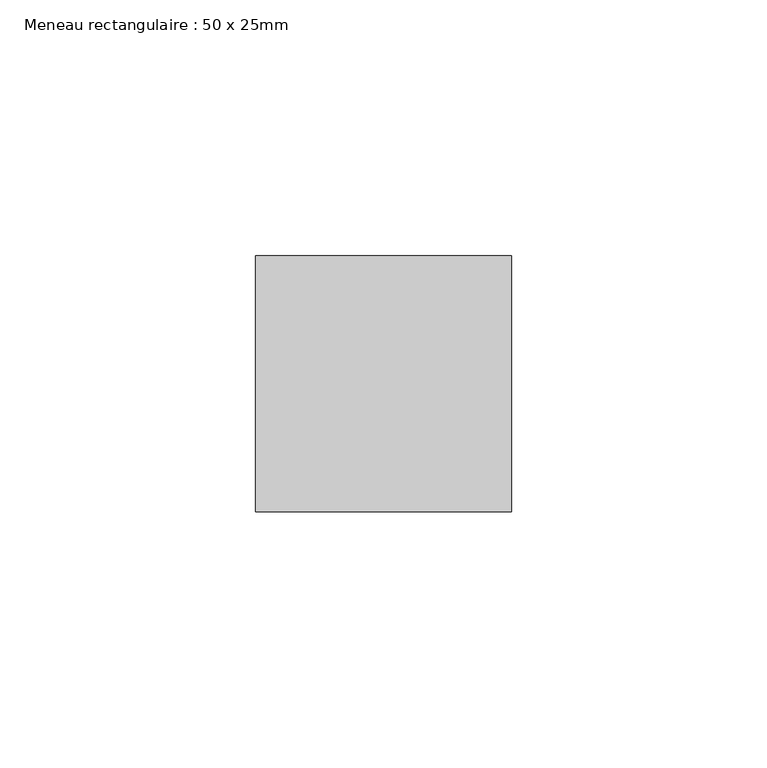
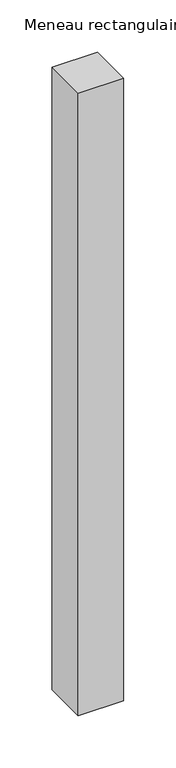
"""IFC4 building model written with IfcOpenShell, lengths in millimetres: member geometry, Meneau rectangulaire : 50 x 25mm."""

from ifc_helpers import new_model, si_unit, frame, origin, place, context, project, spatial, polyline, outline, extrude, source, transform, mapped, element, save


def meneau_rectangulaire_50_x_25mm_f7fa6ad2(model_context):
    return source(origin(), model_context, "Body", "SweptSolid", [
        extrude(outline(polyline([(25.0, 0.0), (25.0, -50.0), (-25.0, -50.0), (-25.0, 0.0), (25.0, 0.0)])), frame((0.0, 0.0, -726.4393104), z_axis=(0.0, 0.0, 1.0), x_axis=(1.0, 0.0, 0.0)), (0.0, 0.0, 1.0), 726.4393104),
    ])


if __name__ == "__main__":
    model = new_model("IFC4")
    model_context = context("Model", 3, world=origin())
    ifc_project = project(units=[si_unit("LENGTHUNIT", "METRE", prefix="MILLI")], contexts=[model_context])
    site = spatial("IfcSite", under=ifc_project)
    building = spatial("IfcBuilding", under=site)
    placement = place(None, origin())
    meneau_rectangulaire_50_x_25mm_shape = meneau_rectangulaire_50_x_25mm_f7fa6ad2(model_context)
    element("IfcMember", 1, ObjectType="Meneau rectangulaire : 50 x 25mm", at=placement, inside=building, context=model_context, shape_type="MappedRepresentation", body=[
        mapped(meneau_rectangulaire_50_x_25mm_shape, transform((0.0, 0.0, 0.0), x_axis=(1.0, 0.0, 0.0), y_axis=(0.0, 1.0, 0.0), z_axis=(0.0, 0.0, 1.0))),
    ])
    save(model, "model.ifc")
